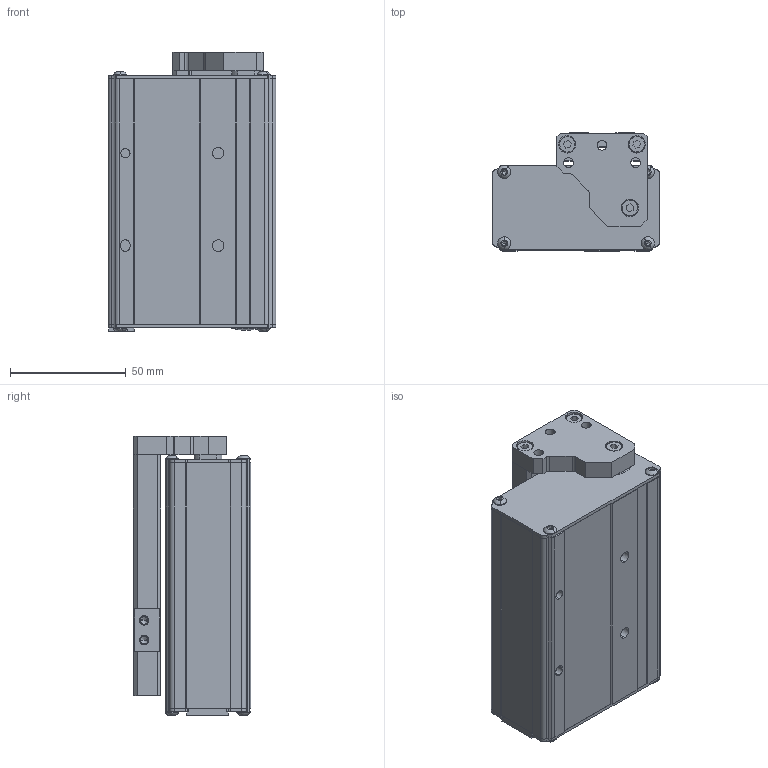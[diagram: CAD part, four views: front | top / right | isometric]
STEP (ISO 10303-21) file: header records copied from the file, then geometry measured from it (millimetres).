
FILE_DESCRIPTION (( 'STEP AP203' ), '1' );
FILE_NAME ('CSS12L-1.5-50.STEP', '2025-03-04T00:44:16', ( '微软用户' ), ( '微软中国' ), 'SwSTEP 2.0', 'SolidWorks 2018', '' );
FILE_SCHEMA (( 'CONFIG_CONTROL_DESIGN' ));
Length unit declared in the file: millimetre
Products named in the file (12): 葩璃 SVS-WS-RB24051-P006  裔啣2^CSS12L-1.5-50; 复件 SVS-WS-RB24051-P009  固线块（借 SVS-WS-RB24046-P007）^CSS12L-1.5-50; 复件 SVS-WS-RB24051-B002-02  导轨（伙伴气动 MXQ12-50 借SVS-WS-RB24050-B002-02 ）^CSS12L-1.5-50; 复件 SVS-WS-RB24051-B008  堵头塞子（靓亿家  φ8宽边带槽型）^CSS12L-1.5-50; 复件 内六角杯头螺钉M4-10^CSS12L-1.5-50; 复件 SVS-WS-RB24051-P001-02  FRAME（左折，ST=50）^CSS12L-1.5-50; 复件 内六角杯头螺钉M4-8^CSS12L-1.5-50; 复件 SVS-WS-RB24051-P003  安装板（左折）^CSS12L-1.5-50; CSS12L-1.5-50; socket button head screw_iso_ISO 7380 - M3 x 8 - 8N; 葩璃 SVS-WS-RB24051-P004  諾陑埴裝 (ST=50)^CSS12L-1.5-50; 葩璃 SVS-WS-RB24051-P005  裔啣1^CSS12L-1.5-50
Assembly tree (19 placements, depth 2):
  CSS12L-1.5-50
    复件 SVS-WS-RB24051-P001-02  FRAME（左折，ST=50）^CSS12L-1.5-50
    复件 SVS-WS-RB24051-P003  安装板（左折）^CSS12L-1.5-50
    葩璃 SVS-WS-RB24051-P004  諾陑埴裝 (ST=50)^CSS12L-1.5-50
    葩璃 SVS-WS-RB24051-P005  裔啣1^CSS12L-1.5-50
    葩璃 SVS-WS-RB24051-P006  裔啣2^CSS12L-1.5-50
    复件 SVS-WS-RB24051-P009  固线块（借 SVS-WS-RB24046-P007）^CSS12L-1.5-50
    复件 SVS-WS-RB24051-B002-02  导轨（伙伴气动 MXQ12-50 借SVS-WS-RB24050-B002-02 ）^CSS12L-1.5-50
    复件 SVS-WS-RB24051-B008  堵头塞子（靓亿家  φ8宽边带槽型）^CSS12L-1.5-50
    复件 内六角杯头螺钉M4-10^CSS12L-1.5-50  x2
    复件 内六角杯头螺钉M4-8^CSS12L-1.5-50
    socket button head screw_iso_ISO 7380 - M3 x 8 - 8N  x8
Bounding box: 72.5 x 50.9 x 120.65 mm (x, y, z)
Volume: 307275.3 mm3; surface area: 70929.7 mm2
Topology: 19 solids, 19 shells, 720 faces, 1787 edges, 1099 vertices
Faces by surface type: plane 303, cylinder 234, cone 131, torus 28, sphere 18, bspline 6
Entity records: 18453 total; most frequent: CARTESIAN_POINT 4133, DIRECTION 2807, ORIENTED_EDGE 2590, EDGE_CURVE 1295, AXIS2_PLACEMENT_3D 1036, VERTEX_POINT 828, LINE 735, VECTOR 735
